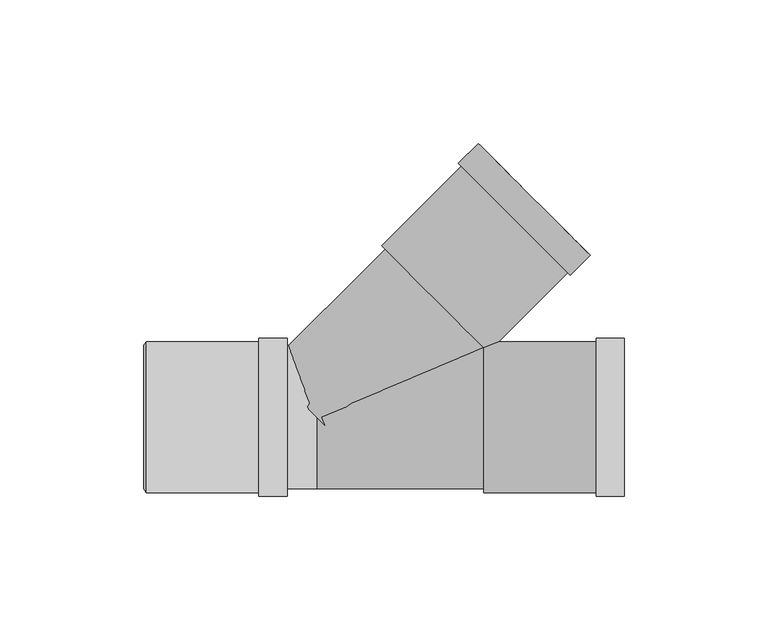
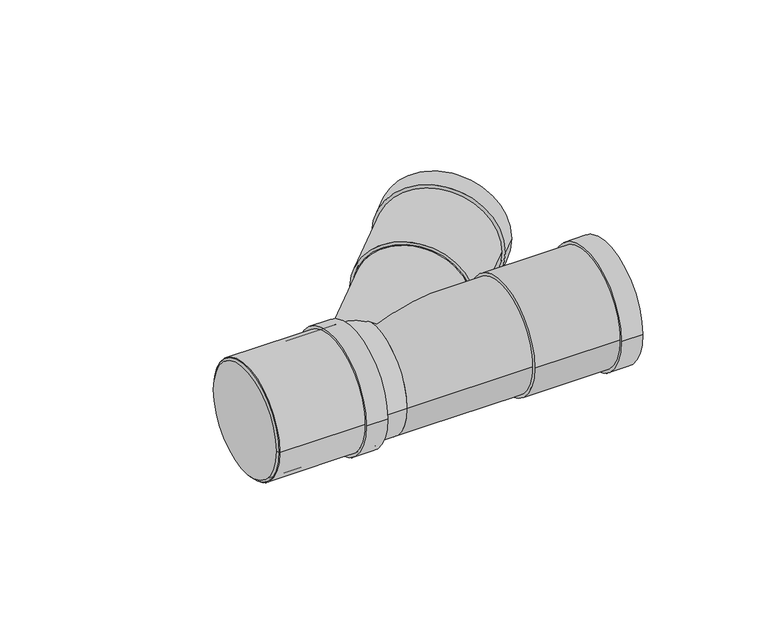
"""IFC4 building model written with IfcOpenShell, lengths in millimetres: pipe fitting geometry, Superdrain HTEA Branch : Superdrain HTEA Branch."""

from ifc_helpers import new_model, si_unit, point, frame, origin, origin_2d, place, context, project, spatial, polyline, circle_curve, trimmed, segment, composite_curve, outline, extrude, source, transform, mapped, element, save
from ifc_brep_helpers import plane_surface, cylinder_surface, revolved_surface, advanced_brep


def pipe_fitting_bbf15c4e(model_context):
    return source(origin(), model_context, "Body", "SolidModel", [
        extrude(outline(composite_curve([segment(trimmed(circle_curve(origin_2d(), 26.25), [point((26.25, 0.0))], [point((-26.25, 0.0))], False, "CARTESIAN"), True, "CONTINUOUS"), segment(trimmed(circle_curve(origin_2d(), 26.25), [point((-26.25, 0.0))], [point((26.25, 0.0))], False, "CARTESIAN"), True, "CONTINUOUS")], self_intersect=False), holes=[composite_curve([segment(trimmed(circle_curve(origin_2d(), 25.0), [point((25.0, 0.0))], [point((-25.0, 0.0))], True, "CARTESIAN"), True, "CONTINUOUS"), segment(trimmed(circle_curve(origin_2d(), 25.0), [point((-25.0, 0.0))], [point((25.0, 0.0))], True, "CARTESIAN"), True, "CONTINUOUS")], self_intersect=False)]), frame((-59.3, 0.0, 0.0), z_axis=(1.0, 0.0, 0.0), x_axis=(0.0, 1.0, 0.0)), (0.0, 0.0, 1.0), 49.0),
        extrude(outline(composite_curve([segment(trimmed(circle_curve(origin_2d(), 27.5625), [point((27.5625, 0.0))], [point((-27.5625, 0.0))], False, "CARTESIAN"), True, "CONTINUOUS"), segment(trimmed(circle_curve(origin_2d(), 27.5625), [point((-27.5625, 0.0))], [point((27.5625, 0.0))], False, "CARTESIAN"), True, "CONTINUOUS")], self_intersect=False), holes=[composite_curve([segment(trimmed(circle_curve(origin_2d(), 25.0), [point((25.0, 0.0))], [point((-25.0, 0.0))], True, "CARTESIAN"), True, "CONTINUOUS"), segment(trimmed(circle_curve(origin_2d(), 25.0), [point((-25.0, 0.0))], [point((25.0, 0.0))], True, "CARTESIAN"), True, "CONTINUOUS")], self_intersect=False)]), frame((-20.1, 0.0, 0.0), z_axis=(1.0, 0.0, 0.0), x_axis=(0.0, 1.0, 0.0)), (0.0, 0.0, 1.0), 9.8),
        advanced_brep(
        [(-60.3, 25.0, 0.0), (-60.3, -25.0, 0.0), (-59.3, 26.25, 0.0), (-59.3, -26.25, 0.0)],
        [
            (0, 1, circle_curve(frame((-60.3, 0.0, 0.0), z_axis=(-1.0, 0.0, 0.0), x_axis=(0.0, 1.0, 0.0)), 25.0)),
            (1, 0, circle_curve(frame((-60.3, 0.0, 0.0), z_axis=(-1.0, 0.0, 0.0), x_axis=(0.0, -1.0, 0.0)), 25.0)),
            (2, 3, circle_curve(frame((-59.3, 0.0, 0.0), z_axis=(1.0, 0.0, 0.0), x_axis=(0.0, -1.0, 0.0)), 26.25)),
            (3, 2, circle_curve(frame((-59.3, 0.0, 0.0), z_axis=(1.0, 0.0, 0.0), x_axis=(0.0, 1.0, 0.0)), 26.25)),
            (3, 1),
            (0, 2),
        ],
        [
            plane_surface(frame((-60.3, 0.0, 0.0), z_axis=(-1.0, 0.0, 0.0), x_axis=(0.0, 0.0, -1.0))),
            plane_surface(frame((-59.3, 0.0, 0.0), z_axis=(1.0, 0.0, 0.0), x_axis=(0.0, 0.0, -1.0))),
            revolved_surface(polyline([(-60.3, 25.0, 0.0), (-59.3, 26.25, 0.0)]), (-80.3, 0.0, 0.0), (1.0, 0.0, 0.0)),
            revolved_surface(polyline([(-60.3, -25.0, 0.0), (-59.3, -26.25, 0.0)]), (-80.3, 0.0, 0.0), (1.0, 0.0, 0.0)),
        ],
        [
            (0, [[1, 2]]),
            (1, [[3, 4]]),
            (2, [[-4, 5, -1, 6]]),
            (3, [[-3, -6, -2, -5]]),
        ],
    ),
        advanced_brep(
        [(58.2, -26.25, 0.0), (58.2, 26.25, 0.0), (107.2, -26.25, 0.0), (107.2, 26.25, 0.0), (107.2, -25.0, 0.0), (107.2, 25.0, 0.0), (59.2, -25.0, 0.0), (59.2, 25.0, 0.0)],
        [
            (0, 1, circle_curve(frame((58.2, 0.0, 0.0), z_axis=(-1.0, 0.0, 0.0), x_axis=(0.0, 1.0, 0.0)), 26.25)),
            (1, 0, circle_curve(frame((58.2, 0.0, 0.0), z_axis=(-1.0, 0.0, 0.0), x_axis=(0.0, 1.0, 0.0)), 26.25)),
            (2, 3, circle_curve(frame((107.2, 0.0, 0.0), z_axis=(1.0, 0.0, 0.0), x_axis=(0.0, 1.0, 0.0)), 26.25)),
            (3, 2, circle_curve(frame((107.2, 0.0, 0.0), z_axis=(1.0, 0.0, 0.0), x_axis=(0.0, 1.0, 0.0)), 26.25)),
            (4, 5, circle_curve(frame((107.2, 0.0, 0.0), z_axis=(-1.0, 0.0, 0.0), x_axis=(0.0, 1.0, 0.0)), 25.0)),
            (5, 4, circle_curve(frame((107.2, 0.0, 0.0), z_axis=(-1.0, 0.0, 0.0), x_axis=(0.0, 1.0, 0.0)), 25.0)),
            (0, 2),
            (3, 1),
            (6, 7, circle_curve(frame((59.2, 0.0, 0.0), z_axis=(-1.0, 0.0, 0.0), x_axis=(0.0, 1.0, 0.0)), 25.0)),
            (7, 5),
            (4, 6),
            (7, 6, circle_curve(frame((59.2, 0.0, 0.0), z_axis=(-1.0, 0.0, 0.0), x_axis=(0.0, 1.0, 0.0)), 25.0)),
        ],
        [
            plane_surface(frame((58.2, 0.0, 0.0), z_axis=(-1.0, 0.0, 0.0), x_axis=(0.0, 0.0, 1.0))),
            plane_surface(frame((107.2, 0.0, 0.0), z_axis=(1.0, 0.0, 0.0), x_axis=(0.0, 0.0, 1.0))),
            cylinder_surface(frame((58.2, 0.0, 0.0), z_axis=(-1.0, 0.0, 0.0), x_axis=(0.0, 1.0, 0.0)), 26.25),
            revolved_surface(polyline([(59.2, 25.0, 0.0), (107.2, 25.0, 0.0)]), (59.2, 0.0, 0.0), (-1.0, 0.0, 0.0)),
            plane_surface(frame((59.2, 0.0, 0.0), z_axis=(1.0, 0.0, 0.0), x_axis=(0.0, 0.0, 1.0))),
        ],
        [
            (0, [[1, 2]]),
            (1, [[3, 4], [5, 6]]),
            (2, [[-1, 7, -4, 8]]),
            (2, [[-2, -8, -3, -7]]),
            (3, [[9, 10, -5, 11]]),
            (3, [[12, -11, -6, -10]]),
            (4, [[-12, -9]]),
        ],
    ),
        extrude(outline(composite_curve([segment(trimmed(circle_curve(origin_2d(), 27.5625), [point((27.5625, 0.0))], [point((-27.5625, 0.0))], False, "CARTESIAN"), True, "CONTINUOUS"), segment(trimmed(circle_curve(origin_2d(), 27.5625), [point((-27.5625, 0.0))], [point((27.5625, 0.0))], False, "CARTESIAN"), True, "CONTINUOUS")], self_intersect=False), holes=[composite_curve([segment(trimmed(circle_curve(origin_2d(), 25.0), [point((25.0, 0.0))], [point((-25.0, 0.0))], True, "CARTESIAN"), True, "CONTINUOUS"), segment(trimmed(circle_curve(origin_2d(), 25.0), [point((-25.0, 0.0))], [point((25.0, 0.0))], True, "CARTESIAN"), True, "CONTINUOUS")], self_intersect=False)]), frame((97.4, 0.0, 0.0), z_axis=(1.0, 0.0, 0.0), x_axis=(0.0, 1.0, 0.0)), (0.0, 0.0, 1.0), 9.8),
        extrude(outline(composite_curve([segment(trimmed(circle_curve(origin_2d(), 24.5), [point((0.0, 24.4999999))], [point((0.0, -24.4999999))], False, "CARTESIAN"), True, "CONTINUOUS"), segment(trimmed(circle_curve(origin_2d(), 24.5), [point((0.0, -24.4999999))], [point((0.0, 24.4999999))], False, "CARTESIAN"), True, "CONTINUOUS")], self_intersect=False)), frame((0.0, 0.0, 0.0), z_axis=(0.7071067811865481, 0.707106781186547, 0.0), x_axis=(0.0, 0.0, 1.0)), (0.0, 0.0, 1.0), 58.2),
        extrude(outline(composite_curve([segment(trimmed(circle_curve(origin_2d(), 25.0), [point((25.0, 0.0))], [point((-25.0, 0.0))], False, "CARTESIAN"), True, "CONTINUOUS"), segment(trimmed(circle_curve(origin_2d(), 25.0), [point((-25.0, 0.0))], [point((25.0, 0.0))], False, "CARTESIAN"), True, "CONTINUOUS")], self_intersect=False)), frame((-59.3, 0.0, 0.0), z_axis=(1.0, 0.0, 0.0), x_axis=(0.0, 1.0, 0.0)), (0.0, 0.0, 1.0), 59.3),
        extrude(outline(composite_curve([segment(trimmed(circle_curve(origin_2d(), 25.0), [point((-25.0, 0.0))], [point((25.0, 0.0))], False, "CARTESIAN"), True, "CONTINUOUS"), segment(trimmed(circle_curve(origin_2d(), 25.0), [point((25.0, 0.0))], [point((-25.0, 0.0))], False, "CARTESIAN"), True, "CONTINUOUS")], self_intersect=False)), frame((0.0, 0.0, 0.0), z_axis=(1.0, 0.0, 0.0), x_axis=(0.0, 1.0, 0.0)), (0.0, 0.0, 1.0), 58.2),
        extrude(outline(composite_curve([segment(trimmed(circle_curve(origin_2d(), 27.5625), [point((0.0, 27.5625))], [point((0.0, -27.5625))], False, "CARTESIAN"), True, "CONTINUOUS"), segment(trimmed(circle_curve(origin_2d(), 27.5625), [point((0.0, -27.5625))], [point((0.0, 27.5625))], False, "CARTESIAN"), True, "CONTINUOUS")], self_intersect=False), holes=[composite_curve([segment(trimmed(circle_curve(origin_2d(), 25.0), [point((0.0, 25.0))], [point((0.0, -25.0))], True, "CARTESIAN"), True, "CONTINUOUS"), segment(trimmed(circle_curve(origin_2d(), 25.0), [point((0.0, -25.0))], [point((0.0, 25.0))], True, "CARTESIAN"), True, "CONTINUOUS")], self_intersect=False)]), frame((68.8722005, 68.8722005, 0.0), z_axis=(0.7071067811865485, 0.7071067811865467, 0.0), x_axis=(0.0, 0.0, 1.0)), (0.0, 0.0, 1.0), 9.8),
        extrude(outline(composite_curve([segment(trimmed(circle_curve(origin_2d(), 26.25), [point((0.0, 26.25))], [point((0.0, -26.25))], False, "CARTESIAN"), True, "CONTINUOUS"), segment(trimmed(circle_curve(origin_2d(), 26.25), [point((0.0, -26.25))], [point((0.0, 26.25))], False, "CARTESIAN"), True, "CONTINUOUS")], self_intersect=False), holes=[composite_curve([segment(trimmed(circle_curve(origin_2d(), 25.0), [point((0.0, 25.0))], [point((0.0, -25.0))], True, "CARTESIAN"), True, "CONTINUOUS"), segment(trimmed(circle_curve(origin_2d(), 25.0), [point((0.0, -25.0))], [point((0.0, 25.0))], True, "CARTESIAN"), True, "CONTINUOUS")], self_intersect=False)]), frame((41.1536147, 41.1536147, 0.0), z_axis=(0.7071067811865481, 0.7071067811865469, 0.0), x_axis=(0.0, 0.0, 1.0)), (0.0, 0.0, 1.0), 49.0),
    ])


if __name__ == "__main__":
    model = new_model("IFC4")
    model_context = context("Model", 3, world=origin())
    ifc_project = project(units=[si_unit("LENGTHUNIT", "METRE", prefix="MILLI")], contexts=[model_context])
    site = spatial("IfcSite", under=ifc_project)
    building = spatial("IfcBuilding", under=site)
    placement = place(None, origin())
    pipe_fitting_shape = pipe_fitting_bbf15c4e(model_context)
    element("IfcPipeFitting", 1, ObjectType="Superdrain HTEA Branch : Superdrain HTEA Branch", at=placement, inside=building, context=model_context, shape_type="MappedRepresentation", body=[
        mapped(pipe_fitting_shape, transform((0.0, 0.0, 0.0), x_axis=(1.0, 0.0, 0.0), y_axis=(0.0, 1.0, 0.0), z_axis=(0.0, 0.0, 1.0))),
    ])
    save(model, "model.ifc")
